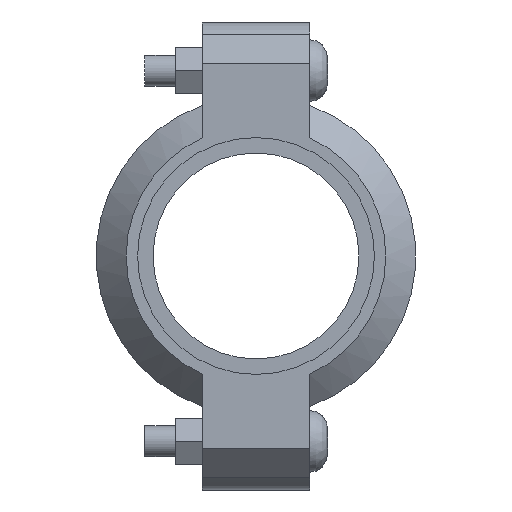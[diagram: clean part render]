
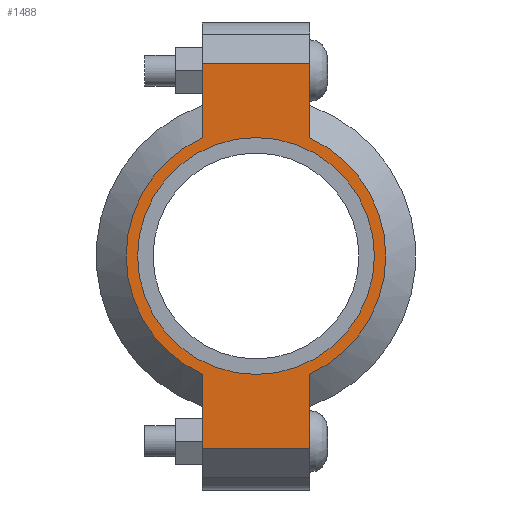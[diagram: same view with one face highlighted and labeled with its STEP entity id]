
A CAD part, left-side view. The second image highlights one B-rep face of the part: STEP entity #1488.
In plain terms, the highlighted planar face has unit normal (-1, 0, 0) as drawn and (0, 0, 1) by its records, which use the part's own axes.
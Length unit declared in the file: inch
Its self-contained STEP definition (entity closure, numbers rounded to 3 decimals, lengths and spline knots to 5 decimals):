
#168=LINE('',#2563,#259);
#176=LINE('',#2599,#267);
#183=LINE('',#2620,#274);
#192=LINE('',#2652,#283);
#193=LINE('',#2656,#284);
#194=LINE('',#2658,#285);
#259=VECTOR('',#2069,0.3937);
#267=VECTOR('',#2085,0.3937);
#274=VECTOR('',#2104,0.3937);
#283=VECTOR('',#2129,0.3937);
#284=VECTOR('',#2134,0.3937);
#285=VECTOR('',#2135,0.3937);
#337=FACE_BOUND('',#497,.T.);
#401=FACE_OUTER_BOUND('',#496,.T.);
#496=EDGE_LOOP('',(#1223,#1224,#1225,#1226,#1227,#1228,#1229,#1230));
#497=EDGE_LOOP('',(#1231));
#594=CIRCLE('',#1731,1.575);
#595=CIRCLE('',#1732,1.575);
#596=CIRCLE('',#1733,1.4375);
#699=VERTEX_POINT('',#2560);
#700=VERTEX_POINT('',#2562);
#711=VERTEX_POINT('',#2594);
#712=VERTEX_POINT('',#2598);
#719=VERTEX_POINT('',#2617);
#720=VERTEX_POINT('',#2619);
#730=VERTEX_POINT('',#2655);
#731=VERTEX_POINT('',#2657);
#732=VERTEX_POINT('',#2660);
#863=EDGE_CURVE('',#700,#699,#168,.T.);
#877=EDGE_CURVE('',#712,#711,#176,.T.);
#887=EDGE_CURVE('',#720,#719,#183,.T.);
#902=EDGE_CURVE('',#712,#699,#192,.T.);
#903=EDGE_CURVE('',#711,#720,#594,.T.);
#904=EDGE_CURVE('',#730,#719,#193,.T.);
#905=EDGE_CURVE('',#730,#731,#194,.T.);
#906=EDGE_CURVE('',#731,#700,#595,.T.);
#907=EDGE_CURVE('',#732,#732,#596,.T.);
#1223=ORIENTED_EDGE('',*,*,#902,.F.);
#1224=ORIENTED_EDGE('',*,*,#877,.T.);
#1225=ORIENTED_EDGE('',*,*,#903,.T.);
#1226=ORIENTED_EDGE('',*,*,#887,.T.);
#1227=ORIENTED_EDGE('',*,*,#904,.F.);
#1228=ORIENTED_EDGE('',*,*,#905,.T.);
#1229=ORIENTED_EDGE('',*,*,#906,.T.);
#1230=ORIENTED_EDGE('',*,*,#863,.T.);
#1231=ORIENTED_EDGE('',*,*,#907,.T.);
#1342=PLANE('',#1730);
#1488=ADVANCED_FACE('',(#401,#337),#1342,.T.);
#1730=AXIS2_PLACEMENT_3D('',#2653,#2130,#2131);
#1731=AXIS2_PLACEMENT_3D('',#2654,#2132,#2133);
#1732=AXIS2_PLACEMENT_3D('',#2659,#2136,#2137);
#1733=AXIS2_PLACEMENT_3D('',#2661,#2138,#2139);
#2069=DIRECTION('',(-1.,0.,0.));
#2085=DIRECTION('',(1.,0.,0.));
#2104=DIRECTION('',(1.,0.,0.));
#2129=DIRECTION('',(0.,1.,0.));
#2130=DIRECTION('center_axis',(0.,0.,1.));
#2131=DIRECTION('ref_axis',(1.,0.,0.));
#2132=DIRECTION('center_axis',(0.,0.,1.));
#2133=DIRECTION('ref_axis',(-1.,0.,0.));
#2134=DIRECTION('',(0.,-1.,0.));
#2135=DIRECTION('',(-1.,0.,0.));
#2136=DIRECTION('center_axis',(0.,0.,1.));
#2137=DIRECTION('ref_axis',(-1.,0.,0.));
#2138=DIRECTION('center_axis',(0.,0.,-1.));
#2139=DIRECTION('ref_axis',(-1.,0.,0.));
#2560=CARTESIAN_POINT('',(-2.34,0.65,0.94));
#2562=CARTESIAN_POINT('',(-1.43462,0.65,0.94));
#2563=CARTESIAN_POINT('',(-2.84,0.65,0.94));
#2594=CARTESIAN_POINT('',(-1.43462,-0.65,0.94));
#2598=CARTESIAN_POINT('',(-2.34,-0.65,0.94));
#2599=CARTESIAN_POINT('',(2.84,-0.65,0.94));
#2617=CARTESIAN_POINT('',(2.34,-0.65,0.94));
#2619=CARTESIAN_POINT('',(1.43462,-0.65,0.94));
#2620=CARTESIAN_POINT('',(2.84,-0.65,0.94));
#2652=CARTESIAN_POINT('',(-2.34,0.325,0.94));
#2653=CARTESIAN_POINT('Origin',(0.,0.,
0.94));
#2654=CARTESIAN_POINT('Origin',(0.,0.,0.94));
#2655=CARTESIAN_POINT('',(2.34,0.65,0.94));
#2656=CARTESIAN_POINT('',(2.34,-0.325,0.94));
#2657=CARTESIAN_POINT('',(1.43462,0.65,0.94));
#2658=CARTESIAN_POINT('',(-2.84,0.65,0.94));
#2659=CARTESIAN_POINT('Origin',(0.,0.,0.94));
#2660=CARTESIAN_POINT('',(1.4375,0.,0.94));
#2661=CARTESIAN_POINT('Origin',(0.,0.,0.94));
